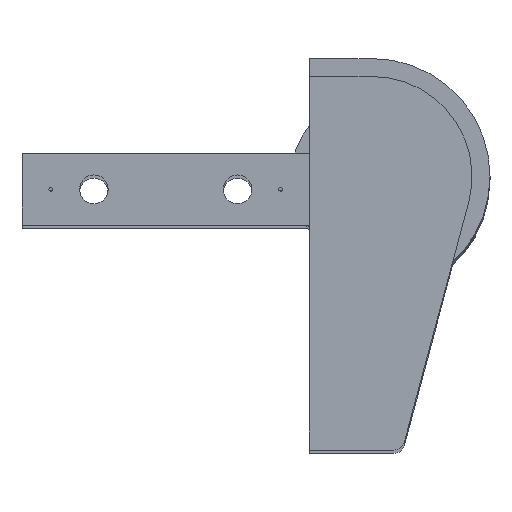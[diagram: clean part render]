
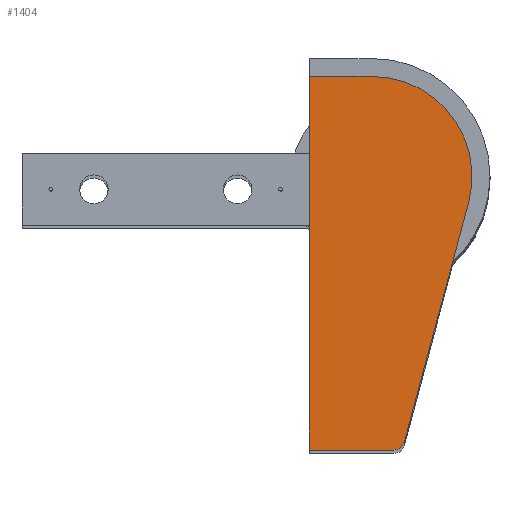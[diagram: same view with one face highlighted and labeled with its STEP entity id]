
A CAD part, top view. The second image highlights one B-rep face of the part: STEP entity #1404.
In plain terms, the highlighted planar face has unit normal (0, 0, 1).
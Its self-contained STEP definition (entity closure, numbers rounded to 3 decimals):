
#28 = DIRECTION ( 'NONE',  ( -1., 0., 0. ) ) ;
#254 = CIRCLE ( 'NONE', #1952, 27.8 ) ;
#278 = LINE ( 'NONE', #1324, #1659 ) ;
#284 = CARTESIAN_POINT ( 'NONE',  ( 3249.7, -109., 272. ) ) ;
#320 = DIRECTION ( 'NONE',  ( 0., -1., 0. ) ) ;
#360 = DIRECTION ( 'NONE',  ( 0., 0., 1. ) ) ;
#401 = ORIENTED_EDGE ( 'NONE', *, *, #1493, .T. ) ;
#460 = CARTESIAN_POINT ( 'NONE',  ( 3276.159, -106.776, 272. ) ) ;
#477 = ORIENTED_EDGE ( 'NONE', *, *, #510, .T. ) ;
#510 = EDGE_CURVE ( 'NONE', #927, #1955, #728, .T. ) ;
#554 = DIRECTION ( 'NONE',  ( 1., 0., 0. ) ) ;
#575 = DIRECTION ( 'NONE',  ( 0., 0., 1. ) ) ;
#581 = DIRECTION ( 'NONE',  ( -1., 0., 0. ) ) ;
#595 = AXIS2_PLACEMENT_3D ( 'NONE', #1665, #575, #28 ) ;
#657 = DIRECTION ( 'NONE',  ( 0.259, 0.966, 0. ) ) ;
#728 = LINE ( 'NONE', #460, #1887 ) ;
#745 = LINE ( 'NONE', #284, #1657 ) ;
#776 = DIRECTION ( 'NONE',  ( 1., 0., 0. ) ) ;
#825 = EDGE_CURVE ( 'NONE', #1955, #2172, #254, .T. ) ;
#866 = DIRECTION ( 'NONE',  ( -1., 0., 0. ) ) ;
#886 = PLANE ( 'NONE',  #894 ) ;
#894 = AXIS2_PLACEMENT_3D ( 'NONE', #1270, #360, #554 ) ;
#908 = ORIENTED_EDGE ( 'NONE', *, *, #825, .T. ) ;
#927 = VERTEX_POINT ( 'NONE', #1953 ) ;
#980 = EDGE_LOOP ( 'NONE', ( #908, #401, #2272, #1502, #1040, #477 ) ) ;
#995 = CARTESIAN_POINT ( 'NONE',  ( 3273.261, -109., 272. ) ) ;
#1040 = ORIENTED_EDGE ( 'NONE', *, *, #1048, .T. ) ;
#1044 = CARTESIAN_POINT ( 'NONE',  ( 3294.053, -39.995, 272. ) ) ;
#1046 = CARTESIAN_POINT ( 'NONE',  ( 3249.7, -109., 272. ) ) ;
#1048 = EDGE_CURVE ( 'NONE', #1886, #927, #1252, .T. ) ;
#1049 = VERTEX_POINT ( 'NONE', #1484 ) ;
#1221 = CARTESIAN_POINT ( 'NONE',  ( 3267.2, -5., 272. ) ) ;
#1252 = CIRCLE ( 'NONE', #595, 3. ) ;
#1270 = CARTESIAN_POINT ( 'NONE',  ( 3273.261, -106., 272. ) ) ;
#1324 = CARTESIAN_POINT ( 'NONE',  ( 3273.261, -5., 272. ) ) ;
#1352 = FACE_OUTER_BOUND ( 'NONE', #980, .T. ) ;
#1363 = EDGE_CURVE ( 'NONE', #1049, #2150, #1406, .T. ) ;
#1404 = ADVANCED_FACE ( 'NONE', ( #1352 ), #886, .T. ) ;
#1406 = LINE ( 'NONE', #2255, #1465 ) ;
#1465 = VECTOR ( 'NONE', #320, 1000. ) ;
#1484 = CARTESIAN_POINT ( 'NONE',  ( 3249.7, -5., 272. ) ) ;
#1493 = EDGE_CURVE ( 'NONE', #2172, #1049, #278, .T. ) ;
#1502 = ORIENTED_EDGE ( 'NONE', *, *, #1684, .T. ) ;
#1657 = VECTOR ( 'NONE', #776, 1000. ) ;
#1659 = VECTOR ( 'NONE', #581, 1000. ) ;
#1665 = CARTESIAN_POINT ( 'NONE',  ( 3273.261, -106., 272. ) ) ;
#1684 = EDGE_CURVE ( 'NONE', #2150, #1886, #745, .T. ) ;
#1754 = DIRECTION ( 'NONE',  ( 0., 0., 1. ) ) ;
#1886 = VERTEX_POINT ( 'NONE', #995 ) ;
#1887 = VECTOR ( 'NONE', #657, 1000. ) ;
#1952 = AXIS2_PLACEMENT_3D ( 'NONE', #2254, #1754, #866 ) ;
#1953 = CARTESIAN_POINT ( 'NONE',  ( 3276.159, -106.776, 272. ) ) ;
#1955 = VERTEX_POINT ( 'NONE', #1044 ) ;
#2150 = VERTEX_POINT ( 'NONE', #1046 ) ;
#2172 = VERTEX_POINT ( 'NONE', #1221 ) ;
#2254 = CARTESIAN_POINT ( 'NONE',  ( 3267.2, -32.8, 272. ) ) ;
#2255 = CARTESIAN_POINT ( 'NONE',  ( 3249.7, -46.4, 272. ) ) ;
#2272 = ORIENTED_EDGE ( 'NONE', *, *, #1363, .T. ) ;
